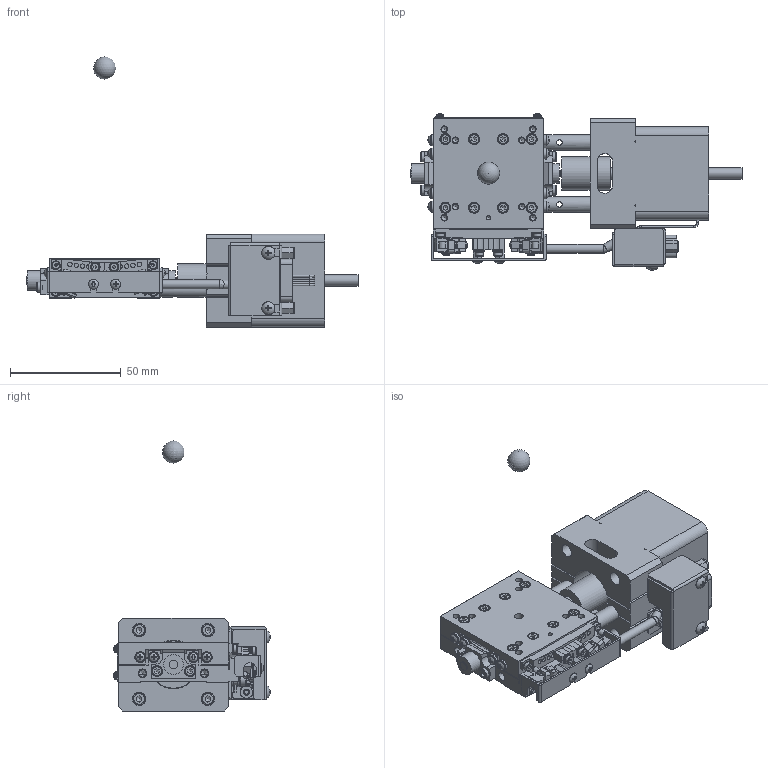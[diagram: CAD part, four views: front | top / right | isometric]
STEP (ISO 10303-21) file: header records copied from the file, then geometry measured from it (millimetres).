
FILE_DESCRIPTION( (''), '2;1');
FILE_NAME ('MVSA05B-RB02-R.stp','2025-02-07T09:37:28',(''),(''),'spGate 20.6.2 (****-****-****-****)','','');
FILE_SCHEMA (('AUTOMOTIVE_DESIGN'));
Length unit declared in the file: millimetre
Products named in the file (4): MVSA05B-RB02-R; rotation center; table; base
Assembly tree (3 placements, depth 2):
  MVSA05B-RB02-R
    rotation center
    table
    base
Bounding box: 150 x 70.67 x 122 mm (x, y, z)
Volume: 149317 mm3; surface area: 53969.1 mm2
Topology: 3 solids, 6 shells, 2739 faces, 7138 edges, 4597 vertices
Faces by surface type: plane 1826, cylinder 622, bspline 258, sphere 33
Full cylindrical faces by diameter (mm): 0.5 x9, 0.9 x15, 1 x9, 1.2 x18, 1.7 x9, 1.8 x18, 2 x38, 2.156 x2, 2.3 x1, 2.46 x10, 2.5 x12, 2.6 x2, 2.75 x1, 2.845 x6, 2.9 x1, 3 x15, 3.2 x2, 3.24 x1, 3.5 x4, 3.8 x6, 4 x12, 4.3 x2, 4.4 x2, 4.5 x34, 4.7 x2, 5 x31, 5.1 x1, 5.5 x6, 5.9 x2, 6 x10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
Entity records: 147310 total; most frequent: CARTESIAN_POINT 24298, ORIENTED_EDGE 14114, DIRECTION 13548, COLOUR_RGB 9799, PRESENTATION_STYLE_ASSIGNMENT 9799, STYLED_ITEM 9799, EDGE_CURVE 7057, DRAUGHTING_PRE_DEFINED_CURVE_FONT 7057
